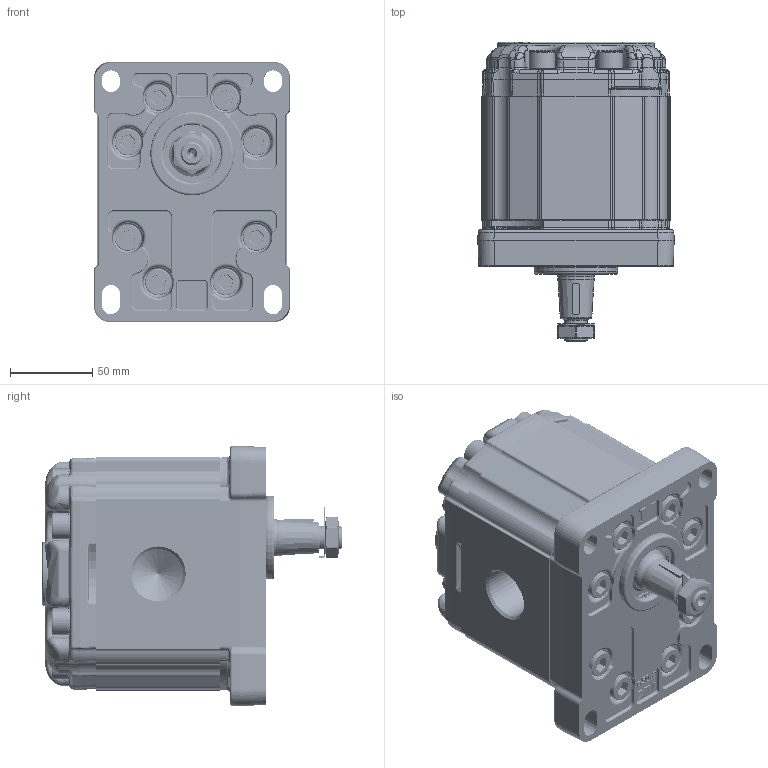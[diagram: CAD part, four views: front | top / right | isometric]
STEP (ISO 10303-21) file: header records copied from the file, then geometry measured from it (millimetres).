
FILE_DESCRIPTION(/* description */ ('Unknown'),/* implementation_level */ '2;1');
FILE_NAME(/* name */ 'X3P7201AEEA',/* time_stamp */ '2026-06-04T18:38:30+02:00',/* author */ ('Unknown'),/* organization */ ('Unknown'),/* preprocessor_version */ 'ST-DEVELOPER v16.7',/* originating_system */ 'Solid Edge',/* authorisation */ 'Unknown');
FILE_SCHEMA (('AUTOMOTIVE_DESIGN {1 0 10303 214 3 1 1}'));
Products named in the file (5): X3P7201AEEA; X3P01; 3A; X3EEH75; XP301-A
Assembly tree (4 placements, depth 2):
  X3P7201AEEA
    X3P01
    3A
    X3EEH75
    XP301-A
Bounding box: 119.2 x 182 x 157.8 mm (x, y, z)
Volume: 1922813.8 mm3; surface area: 216611.7 mm2
Topology: 4 solids, 5 shells, 4573 faces, 14020 edges, 8763 vertices
Faces by surface type: cylinder 1834, plane 1392, bspline 997, torus 200, cone 137, sphere 13
Full cylindrical faces by diameter (mm): 2 x2, 10 x16, 10.35 x30, 10.5 x1, 14 x2, 15.8 x16, 16 x16, 22 x1, 24.98 x1, 25 x2, 25.968 x1, 28.16 x1, 30.291 x2, 31 x1, 31.293 x1, 32.742 x1, 34.956 x1, 35 x1, 35.2 x1, 37 x1, 50.8 x1
Entity records: 310247 total; most frequent: CARTESIAN_POINT 163731, ORIENTED_EDGE 27124, DIRECTION 20337, EDGE_CURVE 13562, VERTEX_POINT 8626, AXIS2_PLACEMENT_3D 7739, FACE_BOUND 5020, EDGE_LOOP 5016
